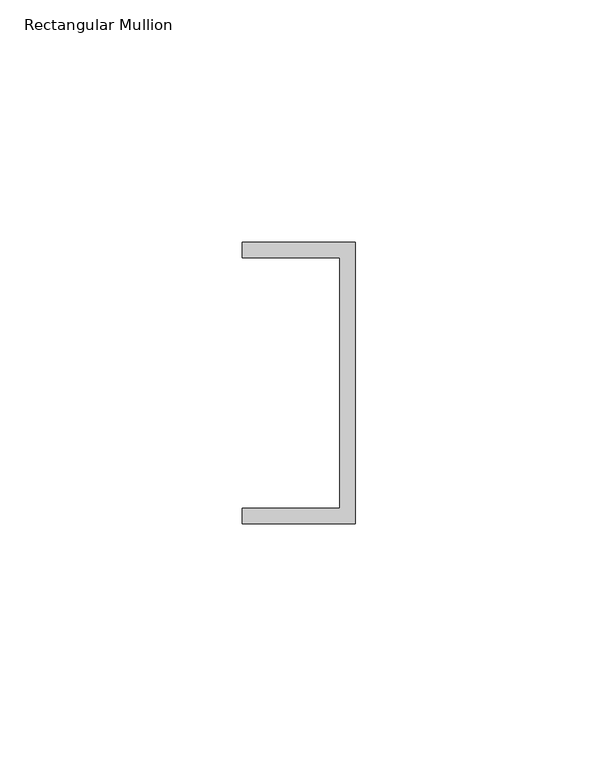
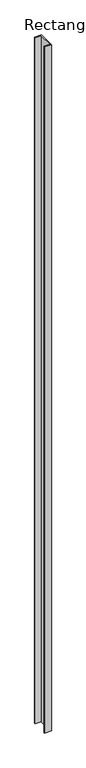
"""IFC4 building model written with IfcOpenShell, lengths in millimetres: member geometry, Rectangular Mullion : Frame-Teknion-Altos-Base_Channel."""

from ifc_helpers import new_model, si_unit, frame, origin, place, context, project, spatial, polyline, outline, extrude, source, transform, mapped, element, save


def rectangular_mullion_0f186f63(model_context):
    return source(origin(), model_context, "Body", "SweptSolid", [
        extrude(outline(polyline([(0.0, 29.0214844), (0.0, -29.0214844), (-23.3164063, -29.0214844), (-23.3164063, -25.8464844), (-3.175, -25.8464844), (-3.175, 25.8464844), (-23.3164063, 25.8464844), (-23.3164063, 29.0214844), (0.0, 29.0214844)])), frame((0.0, 0.0, -2484.040625), z_axis=(0.0, 0.0, 1.0), x_axis=(1.0, 0.0, 0.0)), (0.0, 0.0, 1.0), 2484.040625),
    ])


if __name__ == "__main__":
    model = new_model("IFC4")
    model_context = context("Model", 3, world=origin())
    ifc_project = project(units=[si_unit("LENGTHUNIT", "METRE", prefix="MILLI")], contexts=[model_context])
    site = spatial("IfcSite", under=ifc_project)
    building = spatial("IfcBuilding", under=site)
    placement = place(None, origin())
    rectangular_mullion_shape = rectangular_mullion_0f186f63(model_context)
    element("IfcMember", 1, ObjectType="Rectangular Mullion : Frame-Teknion-Altos-Base_Channel", at=placement, inside=building, context=model_context, shape_type="MappedRepresentation", body=[
        mapped(rectangular_mullion_shape, transform((0.0, 0.0, 0.0), x_axis=(1.0, 0.0, 0.0), y_axis=(0.0, 1.0, 0.0), z_axis=(0.0, 0.0, 1.0))),
    ])
    save(model, "model.ifc")
